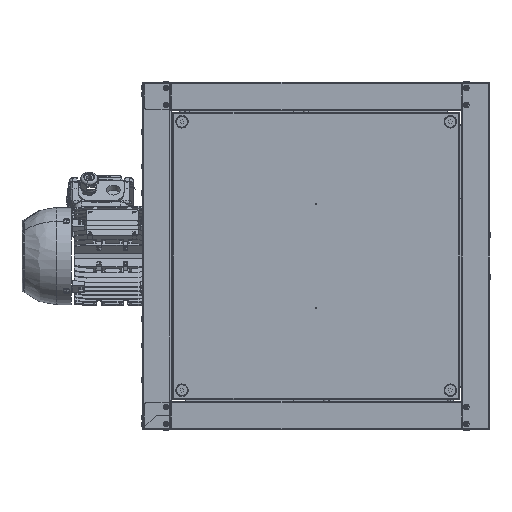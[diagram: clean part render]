
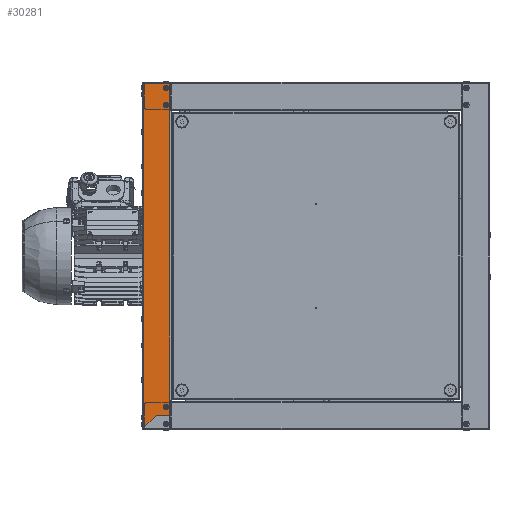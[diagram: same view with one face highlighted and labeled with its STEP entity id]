
A CAD part, left-side view. The second image highlights one B-rep face of the part: STEP entity #30281.
In plain terms, the highlighted planar face has unit normal (-1, 0, 0).
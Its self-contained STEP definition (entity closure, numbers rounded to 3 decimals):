
#350 = EDGE_CURVE ( 'NONE', #72174, #22244, #88676, .T. ) ;
#1605 = ORIENTED_EDGE ( 'NONE', *, *, #350, .T. ) ;
#2810 = AXIS2_PLACEMENT_3D ( 'NONE', #21268, #78000, #29417 ) ;
#2857 = DIRECTION ( 'NONE',  ( 0., 0.707, -0.707 ) ) ;
#3383 = DIRECTION ( 'NONE',  ( 1., 0., 0. ) ) ;
#3524 = CIRCLE ( 'NONE', #2810, 2.1 ) ;
#5172 = VERTEX_POINT ( 'NONE', #43655 ) ;
#5236 = VECTOR ( 'NONE', #95653, 1000. ) ;
#6300 = CARTESIAN_POINT ( 'NONE',  ( -250., 210.2, -210.05 ) ) ;
#10243 = EDGE_LOOP ( 'NONE', ( #89587, #36182 ) ) ;
#10896 = CARTESIAN_POINT ( 'NONE',  ( -250., 210.7, 211.65 ) ) ;
#11377 = ORIENTED_EDGE ( 'NONE', *, *, #45032, .T. ) ;
#12236 = DIRECTION ( 'NONE',  ( 0., 1., 0. ) ) ;
#12724 = DIRECTION ( 'NONE',  ( -1., 0., 0. ) ) ;
#14419 = DIRECTION ( 'NONE',  ( 0., 0., 1. ) ) ;
#14452 = VERTEX_POINT ( 'NONE', #83413 ) ;
#15214 = LINE ( 'NONE', #80136, #98960 ) ;
#16727 = CARTESIAN_POINT ( 'NONE',  ( -250., 210.2, -229.1 ) ) ;
#16876 = FACE_BOUND ( 'NONE', #17640, .T. ) ;
#17036 = VERTEX_POINT ( 'NONE', #87207 ) ;
#17433 = ORIENTED_EDGE ( 'NONE', *, *, #59724, .F. ) ;
#17474 = VERTEX_POINT ( 'NONE', #52001 ) ;
#17640 = EDGE_LOOP ( 'NONE', ( #17433, #72772 ) ) ;
#19126 = CIRCLE ( 'NONE', #26225, 2.1 ) ;
#19434 = FACE_OUTER_BOUND ( 'NONE', #56708, .T. ) ;
#19746 = VERTEX_POINT ( 'NONE', #16727 ) ;
#20226 = ORIENTED_EDGE ( 'NONE', *, *, #53931, .F. ) ;
#20370 = CARTESIAN_POINT ( 'NONE',  ( -250., 210.7, -210.05 ) ) ;
#20997 = CARTESIAN_POINT ( 'NONE',  ( -250., 229.75, -229.1 ) ) ;
#21180 = EDGE_CURVE ( 'NONE', #63295, #85755, #89019, .T. ) ;
#21268 = CARTESIAN_POINT ( 'NONE',  ( -250., 216., 217.2 ) ) ;
#22244 = VERTEX_POINT ( 'NONE', #69144 ) ;
#24253 = DIRECTION ( 'NONE',  ( -1., 0., 0. ) ) ;
#25394 = LINE ( 'NONE', #6300, #87567 ) ;
#26225 = AXIS2_PLACEMENT_3D ( 'NONE', #72859, #24253, #80998 ) ;
#26375 = DIRECTION ( 'NONE',  ( -1., 0., 0. ) ) ;
#29262 = VERTEX_POINT ( 'NONE', #79612 ) ;
#29316 = LINE ( 'NONE', #30757, #5236 ) ;
#29417 = DIRECTION ( 'NONE',  ( 0., -1., 0. ) ) ;
#30281 = ADVANCED_FACE ( 'NONE', ( #16876, #81568, #103168, #19434 ), #84195, .F. ) ;
#30757 = CARTESIAN_POINT ( 'NONE',  ( -250., 248., 248.95 ) ) ;
#30891 = VERTEX_POINT ( 'NONE', #93620 ) ;
#31394 = CARTESIAN_POINT ( 'NONE',  ( -250., 210.7, 248.95 ) ) ;
#32210 = EDGE_CURVE ( 'NONE', #96616, #19746, #68149, .T. ) ;
#32989 = EDGE_LOOP ( 'NONE', ( #90780, #20226 ) ) ;
#34222 = EDGE_CURVE ( 'NONE', #89376, #30891, #85596, .T. ) ;
#35621 = CARTESIAN_POINT ( 'NONE',  ( -250., 250., 248.95 ) ) ;
#36182 = ORIENTED_EDGE ( 'NONE', *, *, #34222, .F. ) ;
#36697 = CARTESIAN_POINT ( 'NONE',  ( -250., 216., 241.7 ) ) ;
#39446 = CARTESIAN_POINT ( 'NONE',  ( -250., 210.2, -229.1 ) ) ;
#39546 = DIRECTION ( 'NONE',  ( 0., 0., -1. ) ) ;
#39704 = DIRECTION ( 'NONE',  ( 0., 1., 0. ) ) ;
#40539 = AXIS2_PLACEMENT_3D ( 'NONE', #35621, #3383, #60086 ) ;
#40942 = ORIENTED_EDGE ( 'NONE', *, *, #56484, .T. ) ;
#41897 = LINE ( 'NONE', #31394, #102967 ) ;
#42256 = DIRECTION ( 'NONE',  ( -1., 0., 0. ) ) ;
#43655 = CARTESIAN_POINT ( 'NONE',  ( -250., 213.9, -217.2 ) ) ;
#44495 = ORIENTED_EDGE ( 'NONE', *, *, #95437, .T. ) ;
#44888 = DIRECTION ( 'NONE',  ( 0., -1., 0. ) ) ;
#45032 = EDGE_CURVE ( 'NONE', #14452, #62838, #29316, .T. ) ;
#45556 = VECTOR ( 'NONE', #12236, 1000. ) ;
#46268 = EDGE_CURVE ( 'NONE', #17474, #14452, #15214, .T. ) ;
#47363 = AXIS2_PLACEMENT_3D ( 'NONE', #61263, #12724, #69418 ) ;
#48238 = DIRECTION ( 'NONE',  ( 0., 0., 1. ) ) ;
#48668 = ORIENTED_EDGE ( 'NONE', *, *, #46268, .T. ) ;
#49752 = EDGE_CURVE ( 'NONE', #51297, #5172, #81999, .T. ) ;
#51297 = VERTEX_POINT ( 'NONE', #99597 ) ;
#52001 = CARTESIAN_POINT ( 'NONE',  ( -250., 210.2, 248. ) ) ;
#52839 = ORIENTED_EDGE ( 'NONE', *, *, #21180, .T. ) ;
#53931 = EDGE_CURVE ( 'NONE', #29262, #17036, #3524, .T. ) ;
#56484 = EDGE_CURVE ( 'NONE', #85755, #17474, #102019, .T. ) ;
#56708 = EDGE_LOOP ( 'NONE', ( #48668, #11377, #99916, #82754, #44495, #1605, #97762, #52839, #40942 ) ) ;
#57037 = CARTESIAN_POINT ( 'NONE',  ( -250., 218.1, 241.7 ) ) ;
#57846 = AXIS2_PLACEMENT_3D ( 'NONE', #36697, #93415, #44888 ) ;
#59724 = EDGE_CURVE ( 'NONE', #5172, #51297, #19126, .T. ) ;
#60086 = DIRECTION ( 'NONE',  ( 0., 1., 0. ) ) ;
#60539 = EDGE_CURVE ( 'NONE', #96616, #62838, #69650, .T. ) ;
#61263 = CARTESIAN_POINT ( 'NONE',  ( -250., 216., -217.2 ) ) ;
#61956 = AXIS2_PLACEMENT_3D ( 'NONE', #74923, #26375, #83126 ) ;
#62838 = VERTEX_POINT ( 'NONE', #68049 ) ;
#63295 = VERTEX_POINT ( 'NONE', #10896 ) ;
#65592 = VECTOR ( 'NONE', #72427, 1000. ) ;
#66693 = CARTESIAN_POINT ( 'NONE',  ( -250., 210.2, 211.65 ) ) ;
#67149 = EDGE_CURVE ( 'NONE', #17036, #29262, #92660, .T. ) ;
#68049 = CARTESIAN_POINT ( 'NONE',  ( -250., 248., -247.35 ) ) ;
#68149 = LINE ( 'NONE', #39446, #65592 ) ;
#69144 = CARTESIAN_POINT ( 'NONE',  ( -250., 210.7, -210.05 ) ) ;
#69418 = DIRECTION ( 'NONE',  ( 0., -1., 0. ) ) ;
#69650 = LINE ( 'NONE', #83673, #91241 ) ;
#69959 = VECTOR ( 'NONE', #87795, 1000. ) ;
#71827 = CARTESIAN_POINT ( 'NONE',  ( -250., 210.7, 211.65 ) ) ;
#72174 = VERTEX_POINT ( 'NONE', #91874 ) ;
#72427 = DIRECTION ( 'NONE',  ( 0., -1., 0. ) ) ;
#72772 = ORIENTED_EDGE ( 'NONE', *, *, #49752, .F. ) ;
#72859 = CARTESIAN_POINT ( 'NONE',  ( -250., 216., -217.2 ) ) ;
#74923 = CARTESIAN_POINT ( 'NONE',  ( -250., 216., 241.7 ) ) ;
#78000 = DIRECTION ( 'NONE',  ( -1., 0., 0. ) ) ;
#79612 = CARTESIAN_POINT ( 'NONE',  ( -250., 218.1, 217.2 ) ) ;
#80136 = CARTESIAN_POINT ( 'NONE',  ( -250., 210.2, 248. ) ) ;
#80440 = VECTOR ( 'NONE', #48238, 1000. ) ;
#80998 = DIRECTION ( 'NONE',  ( 0., -1., 0. ) ) ;
#81568 = FACE_BOUND ( 'NONE', #32989, .T. ) ;
#81999 = CIRCLE ( 'NONE', #47363, 2.1 ) ;
#82169 = CIRCLE ( 'NONE', #57846, 2.1 ) ;
#82754 = ORIENTED_EDGE ( 'NONE', *, *, #32210, .T. ) ;
#83126 = DIRECTION ( 'NONE',  ( 0., -1., 0. ) ) ;
#83413 = CARTESIAN_POINT ( 'NONE',  ( -250., 248., 248. ) ) ;
#83673 = CARTESIAN_POINT ( 'NONE',  ( -250., 249.1, -248.45 ) ) ;
#84195 = PLANE ( 'NONE',  #40539 ) ;
#85596 = CIRCLE ( 'NONE', #61956, 2.1 ) ;
#85755 = VERTEX_POINT ( 'NONE', #66693 ) ;
#87207 = CARTESIAN_POINT ( 'NONE',  ( -250., 213.9, 217.2 ) ) ;
#87567 = VECTOR ( 'NONE', #14419, 1000. ) ;
#87795 = DIRECTION ( 'NONE',  ( 0., -1., 0. ) ) ;
#87987 = EDGE_CURVE ( 'NONE', #30891, #89376, #82169, .T. ) ;
#88676 = LINE ( 'NONE', #20370, #45556 ) ;
#89019 = LINE ( 'NONE', #71827, #69959 ) ;
#89376 = VERTEX_POINT ( 'NONE', #57037 ) ;
#89587 = ORIENTED_EDGE ( 'NONE', *, *, #87987, .F. ) ;
#90454 = AXIS2_PLACEMENT_3D ( 'NONE', #90797, #42256, #98955 ) ;
#90780 = ORIENTED_EDGE ( 'NONE', *, *, #67149, .F. ) ;
#90797 = CARTESIAN_POINT ( 'NONE',  ( -250., 216., 217.2 ) ) ;
#91241 = VECTOR ( 'NONE', #2857, 1000. ) ;
#91874 = CARTESIAN_POINT ( 'NONE',  ( -250., 210.2, -210.05 ) ) ;
#92660 = CIRCLE ( 'NONE', #90454, 2.1 ) ;
#93415 = DIRECTION ( 'NONE',  ( -1., 0., 0. ) ) ;
#93620 = CARTESIAN_POINT ( 'NONE',  ( -250., 213.9, 241.7 ) ) ;
#95437 = EDGE_CURVE ( 'NONE', #19746, #72174, #25394, .T. ) ;
#95495 = EDGE_CURVE ( 'NONE', #63295, #22244, #41897, .T. ) ;
#95653 = DIRECTION ( 'NONE',  ( 0., 0., -1. ) ) ;
#96616 = VERTEX_POINT ( 'NONE', #20997 ) ;
#96817 = CARTESIAN_POINT ( 'NONE',  ( -250., 210.2, 211.65 ) ) ;
#97762 = ORIENTED_EDGE ( 'NONE', *, *, #95495, .F. ) ;
#98955 = DIRECTION ( 'NONE',  ( 0., -1., 0. ) ) ;
#98960 = VECTOR ( 'NONE', #39704, 1000. ) ;
#99597 = CARTESIAN_POINT ( 'NONE',  ( -250., 218.1, -217.2 ) ) ;
#99916 = ORIENTED_EDGE ( 'NONE', *, *, #60539, .F. ) ;
#102019 = LINE ( 'NONE', #96817, #80440 ) ;
#102967 = VECTOR ( 'NONE', #39546, 1000. ) ;
#103168 = FACE_BOUND ( 'NONE', #10243, .T. ) ;
